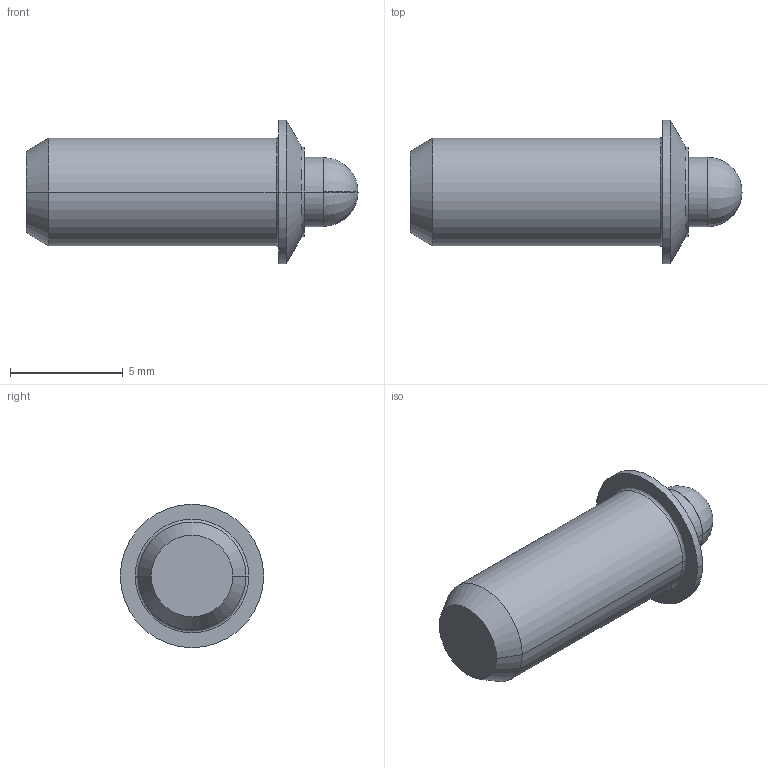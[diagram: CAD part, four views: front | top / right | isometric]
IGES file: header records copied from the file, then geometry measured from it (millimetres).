
Start section:  PTC IGES file: pfp52-part-3d.igs
Global section: file name: pfp52-part-3d.igs; native system: Pro/ENGINEER by Parametric Technology Corporation; preprocessor: 2002350; author: chant; organization: Unknown; date: 070201.153600; units: inch
Bounding box: 14.71 x 6.35 x 6.35 mm (x, y, z)
Surface area: 373.2 mm2 (no closed solid volume)
Topology: 0 solids, 0 shells, 30 faces, 154 edges, 176 vertices
Faces by surface type: revolution 24, bspline 6
